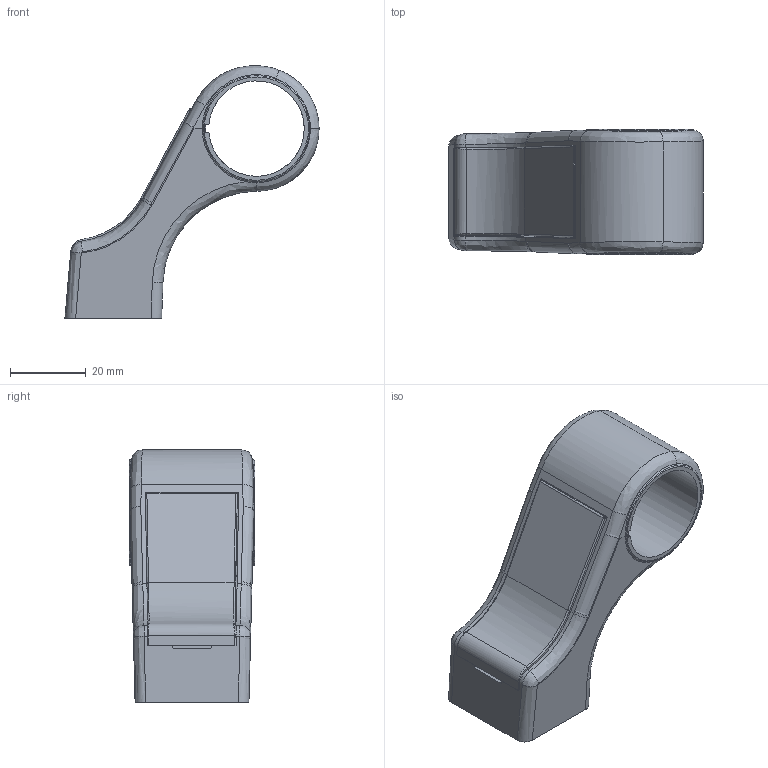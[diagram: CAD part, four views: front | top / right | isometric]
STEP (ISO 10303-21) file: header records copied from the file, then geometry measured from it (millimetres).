
FILE_DESCRIPTION (( 'STEP AP214' ), '1' );
FILE_NAME ('L19216.step', '2024-12-03T16:23:58', ( '' ), ( '' ), 'SwSTEP 2.0', 'SolidWorks 2023', '' );
FILE_SCHEMA (( 'AUTOMOTIVE_DESIGN' ));
Length unit declared in the file: millimetre
Products named in the file (1): L19216
Bounding box: 67 x 33 x 66.58 mm (x, y, z)
Surface area: 13512.6 mm2 (no closed solid volume)
Topology: 0 solids, 2 shells, 227 faces, 714 edges, 466 vertices
Faces by surface type: bspline 107, cylinder 65, plane 55
Full cylindrical faces by diameter (mm): 8.5 x1
Entity records: 21686 total; most frequent: CARTESIAN_POINT 16818, ORIENTED_EDGE 1222, EDGE_CURVE 709, DIRECTION 584, VERTEX_POINT 466, B_SPLINE_CURVE_WITH_KNOTS 307, LINE 280, VECTOR 280
